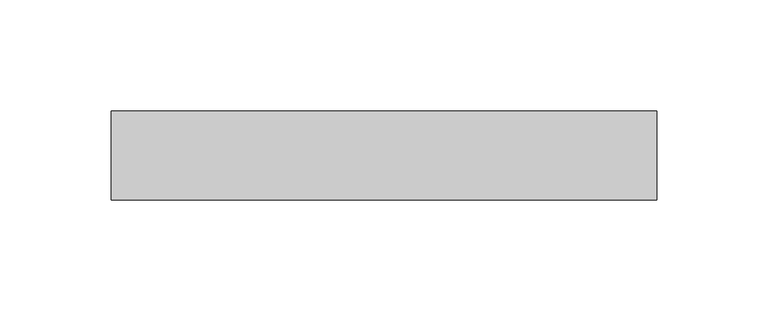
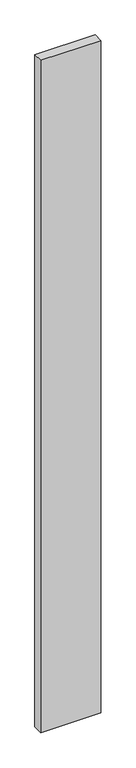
"""IFC4 building model written with IfcOpenShell, lengths in millimetres: plate geometry, Lod 200 Regolare 800 Vertical : Azuro."""

from ifc_helpers import new_model, si_unit, origin, origin_with_axes, place, context, project, spatial, polyline, outline, extrude, source, transform, mapped, element, save


def plate_7ffcf5e8(model_context):
    return source(origin(), model_context, "Body", "SweptSolid", [
        extrude(outline(polyline([(122.6966549, -40.0), (-122.6966549, -40.0), (-122.6966549, 0.0), (122.6966549, 0.0), (122.6966549, -40.0)])), origin_with_axes(), (0.0, 0.0, 1.0), 2900.0),
    ])


if __name__ == "__main__":
    model = new_model("IFC4")
    model_context = context("Model", 3, world=origin())
    ifc_project = project(units=[si_unit("LENGTHUNIT", "METRE", prefix="MILLI")], contexts=[model_context])
    site = spatial("IfcSite", under=ifc_project)
    building = spatial("IfcBuilding", under=site)
    placement = place(None, origin())
    plate_shape = plate_7ffcf5e8(model_context)
    element("IfcPlate", 1, ObjectType="Lod 200 Regolare 800 Vertical : Azuro", at=placement, inside=building, context=model_context, shape_type="MappedRepresentation", body=[
        mapped(plate_shape, transform((0.0, 0.0, 0.0), x_axis=(1.0, 0.0, 0.0), y_axis=(0.0, 1.0, 0.0), z_axis=(0.0, 0.0, 1.0))),
    ])
    save(model, "model.ifc")
